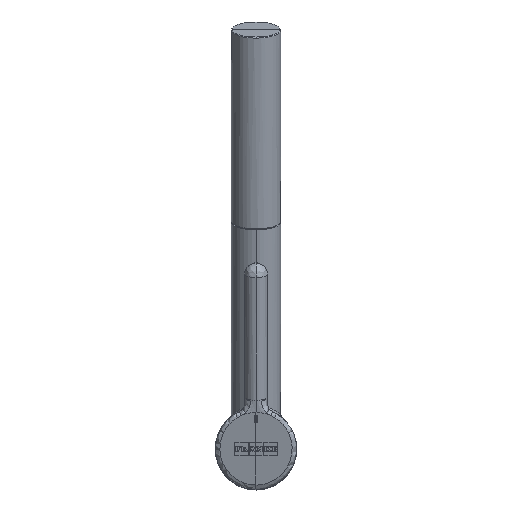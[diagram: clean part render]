
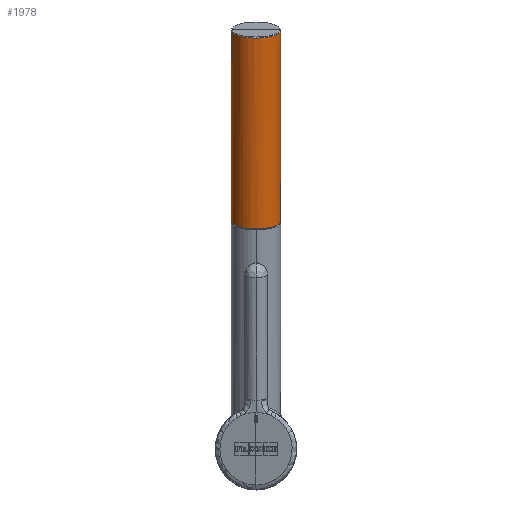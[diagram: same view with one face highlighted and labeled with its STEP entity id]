
A CAD part, top view. The second image highlights one B-rep face of the part: STEP entity #1978.
In plain terms, the highlighted cylindrical face has radius 14 mm (diameter 28 mm), a partial arc.
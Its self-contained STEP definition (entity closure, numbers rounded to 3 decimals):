
#1157=CYLINDRICAL_SURFACE('',#13682,14.);
#1978=ADVANCED_FACE('',(#2739),#1157,.T.);
#2739=FACE_OUTER_BOUND('',#3521,.T.);
#3521=EDGE_LOOP('',(#5795,#5796,#5797,#5798));
#5795=ORIENTED_EDGE('',*,*,#8669,.T.);
#5796=ORIENTED_EDGE('',*,*,#8671,.F.);
#5797=ORIENTED_EDGE('',*,*,#8670,.T.);
#5798=ORIENTED_EDGE('',*,*,#8666,.F.);
#8666=EDGE_CURVE('',#11606,#11609,#10441,.T.);
#8669=EDGE_CURVE('',#11606,#11607,#10444,.T.);
#8670=EDGE_CURVE('',#11608,#11609,#10445,.T.);
#8671=EDGE_CURVE('',#11608,#11607,#10446,.T.);
#10441=B_SPLINE_CURVE_WITH_KNOTS('',1,(#25340,#25341),.UNSPECIFIED.,.F.,
 .F.,(2,2),(-114.2,0.),.UNSPECIFIED.);
#10444=B_SPLINE_CURVE_WITH_KNOTS('',3,(#25392,#25393,#25394,#25395,#25396,
#25397,#25398,#25399,#25400,#25401,#25402,#25403,#25404,#25405,#25406,#25407,
#25408,#25409,#25410,#25411),.UNSPECIFIED.,.F.,.F.,(4,1,1,1,1,1,1,1,1,1,
1,1,1,1,1,1,1,4),(-44.163,-41.566,-38.968,
-36.37,-33.772,-31.174,-28.576,
-25.978,-23.381,-20.783,-18.185,
-15.587,-12.989,-10.391,-7.794,
-5.196,-2.598,0.),.UNSPECIFIED.);
#10445=B_SPLINE_CURVE_WITH_KNOTS('',3,(#25412,#25413,#25414,#25415,#25416,
#25417,#25418,#25419,#25420,#25421,#25422,#25423,#25424,#25425,#25426,#25427,
#25428,#25429,#25430,#25431),.UNSPECIFIED.,.F.,.F.,(4,1,1,1,1,1,1,1,1,1,
1,1,1,1,1,1,1,4),(-44.163,-41.566,-38.968,
-36.37,-33.772,-31.174,-28.576,
-25.978,-23.381,-20.783,-18.185,
-15.587,-12.989,-10.391,-7.794,
-5.196,-2.598,0.),.UNSPECIFIED.);
#10446=B_SPLINE_CURVE_WITH_KNOTS('',1,(#25432,#25433),.UNSPECIFIED.,.F.,
 .F.,(2,2),(0.,114.2),.UNSPECIFIED.);
#11606=VERTEX_POINT('',#24682);
#11607=VERTEX_POINT('',#24683);
#11608=VERTEX_POINT('',#24684);
#11609=VERTEX_POINT('',#24685);
#13682=AXIS2_PLACEMENT_3D('',#23587,#14827,$);
#14827=DIRECTION('',(-1.,0.,0.));
#23587=CARTESIAN_POINT('',(-57.4,0.,0.));
#24682=CARTESIAN_POINT('',(-0.3,14.,0.));
#24683=CARTESIAN_POINT('',(-0.3,-14.,0.));
#24684=CARTESIAN_POINT('',(-114.5,-14.,0.));
#24685=CARTESIAN_POINT('',(-114.5,14.,0.));
#25340=CARTESIAN_POINT('',(-0.3,14.,0.));
#25341=CARTESIAN_POINT('',(-114.5,14.,0.));
#25392=CARTESIAN_POINT('',(-0.3,14.,0.));
#25393=CARTESIAN_POINT('',(-0.304,14.,-0.864));
#25394=CARTESIAN_POINT('',(-0.313,13.84,-2.592));
#25395=CARTESIAN_POINT('',(-0.326,13.124,-5.101));
#25396=CARTESIAN_POINT('',(-0.338,11.957,-7.433));
#25397=CARTESIAN_POINT('',(-0.349,10.406,-9.483));
#25398=CARTESIAN_POINT('',(-0.358,8.48,-11.241));
#25399=CARTESIAN_POINT('',(-0.365,6.274,-12.604));
#25400=CARTESIAN_POINT('',(-0.369,3.856,-13.541));
#25401=CARTESIAN_POINT('',(-0.372,1.308,-14.019));
#25402=CARTESIAN_POINT('',(-0.372,-1.287,-14.021));
#25403=CARTESIAN_POINT('',(-0.369,-3.843,-13.546));
#25404=CARTESIAN_POINT('',(-0.365,-6.274,-12.605));
#25405=CARTESIAN_POINT('',(-0.358,-8.492,-11.232));
#25406=CARTESIAN_POINT('',(-0.348,-10.424,-9.464));
#25407=CARTESIAN_POINT('',(-0.338,-11.972,-7.408));
#25408=CARTESIAN_POINT('',(-0.326,-13.133,-5.077));
#25409=CARTESIAN_POINT('',(-0.313,-13.842,-2.577));
#25410=CARTESIAN_POINT('',(-0.304,-14.,-0.858));
#25411=CARTESIAN_POINT('',(-0.3,-14.,0.));
#25412=CARTESIAN_POINT('',(-114.5,-14.,0.));
#25413=CARTESIAN_POINT('',(-114.496,-14.,-0.864));
#25414=CARTESIAN_POINT('',(-114.487,-13.84,-2.592));
#25415=CARTESIAN_POINT('',(-114.474,-13.124,-5.101));
#25416=CARTESIAN_POINT('',(-114.462,-11.957,-7.433));
#25417=CARTESIAN_POINT('',(-114.452,-10.406,-9.483));
#25418=CARTESIAN_POINT('',(-114.443,-8.48,-11.241));
#25419=CARTESIAN_POINT('',(-114.436,-6.274,-12.604));
#25420=CARTESIAN_POINT('',(-114.432,-3.856,-13.541));
#25421=CARTESIAN_POINT('',(-114.429,-1.308,-14.019));
#25422=CARTESIAN_POINT('',(-114.429,1.287,-14.021));
#25423=CARTESIAN_POINT('',(-114.432,3.843,-13.546));
#25424=CARTESIAN_POINT('',(-114.436,6.274,-12.605));
#25425=CARTESIAN_POINT('',(-114.443,8.492,-11.232));
#25426=CARTESIAN_POINT('',(-114.452,10.424,-9.464));
#25427=CARTESIAN_POINT('',(-114.463,11.972,-7.408));
#25428=CARTESIAN_POINT('',(-114.474,13.133,-5.077));
#25429=CARTESIAN_POINT('',(-114.487,13.842,-2.577));
#25430=CARTESIAN_POINT('',(-114.496,14.,-0.858));
#25431=CARTESIAN_POINT('',(-114.5,14.,0.));
#25432=CARTESIAN_POINT('',(-114.5,-14.,0.));
#25433=CARTESIAN_POINT('',(-0.3,-14.,0.));
